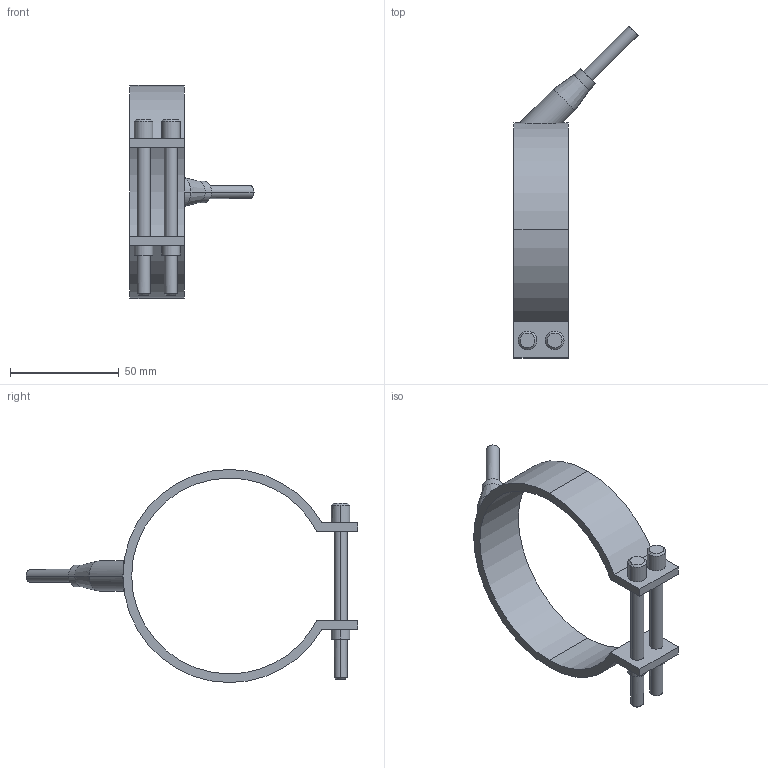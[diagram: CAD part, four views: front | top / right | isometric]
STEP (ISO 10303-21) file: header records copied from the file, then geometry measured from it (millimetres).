
FILE_DESCRIPTION(('CATIA V5 STEP Exchange'),'2;1');
FILE_NAME('C:\Users\Utente\Desktop\IO LAVORO\3D X SITO CF\X SITO\PLASTICA\RF1\29090025.stp','2021-03-29T18:01:30+00:00',('none'),('none'),'CATIA Version 5 Release 20 GA (IN-10)','CATIA V5 STEP AP203','none');
FILE_SCHEMA(('CONFIG_CONTROL_DESIGN'));
Length unit declared in the file: millimetre
Products named in the file (1): 29090025
Bounding box: 57.05 x 152.55 x 98 mm (x, y, z)
Volume: 38059.2 mm3; surface area: 21123.8 mm2
Topology: 1 solids, 1 shells, 54 faces, 123 edges, 79 vertices
Faces by surface type: cylinder 28, plane 16, cone 10
Entity records: 1734 total; most frequent: CARTESIAN_POINT 502, ORIENTED_EDGE 246, DIRECTION 213, EDGE_CURVE 123, AXIS2_PLACEMENT_3D 106, VERTEX_POINT 79, EDGE_LOOP 66, VECTOR 56
